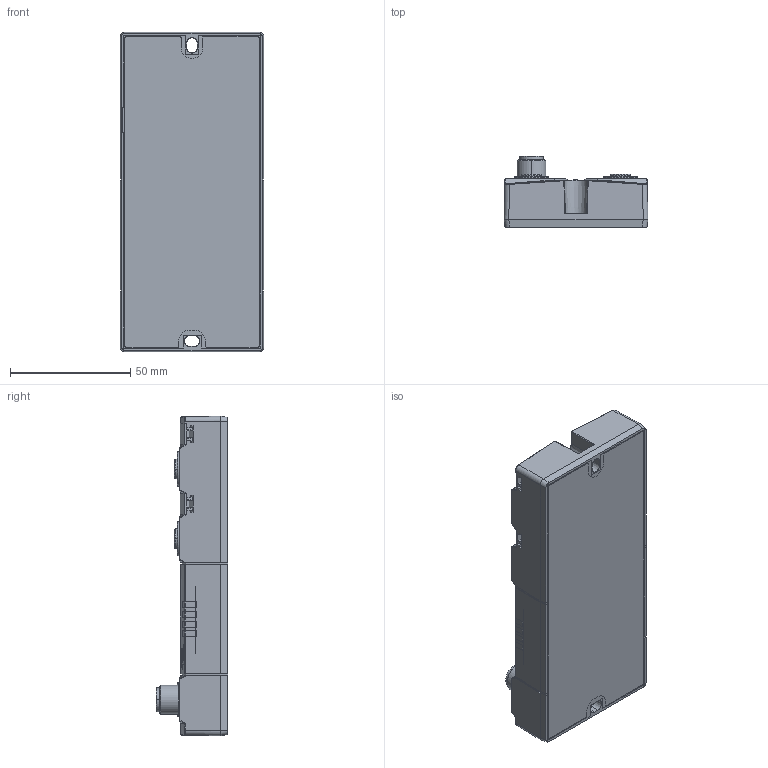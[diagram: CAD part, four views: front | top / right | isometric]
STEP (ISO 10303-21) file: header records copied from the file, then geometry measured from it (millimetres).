
FILE_DESCRIPTION((''),'2;1');
FILE_NAME('2007478','2010-07-05T',('smayer'),(''),'PRO/ENGINEER BY PARAMETRIC TECHNOLOGY CORPORATION, 2009380','PRO/ENGINEER BY PARAMETRIC TECHNOLOGY CORPORATION, 2009380','');
FILE_SCHEMA(('AUTOMOTIVE_DESIGN_CC2 { 1 2 10303 214 -1 1 5 2 }'));
Products named in the file (1): 2007478
Bounding box: 59.9 x 29.6 x 132.9 mm (x, y, z)
Surface area: 72096.2 mm2 (no closed solid volume)
Topology: 0 solids, 75 shells, 3002 faces, 9406 edges, 6332 vertices
Faces by surface type: plane 1758, cylinder 669, torus 177, bspline 173, cone 172, sphere 53
Entity records: 174454 total; most frequent: CARTESIAN_POINT 48456, ORIENTED_EDGE 16755, DIRECTION 13868, PRESENTATION_STYLE_ASSIGNMENT 12334, STYLED_ITEM 9336, CURVE_STYLE 9281, EDGE_CURVE 9280, VERTEX_POINT 6328
